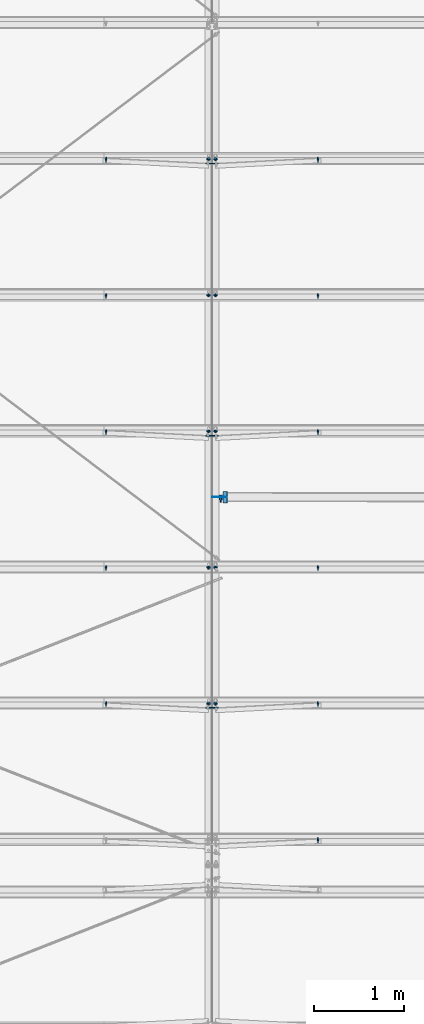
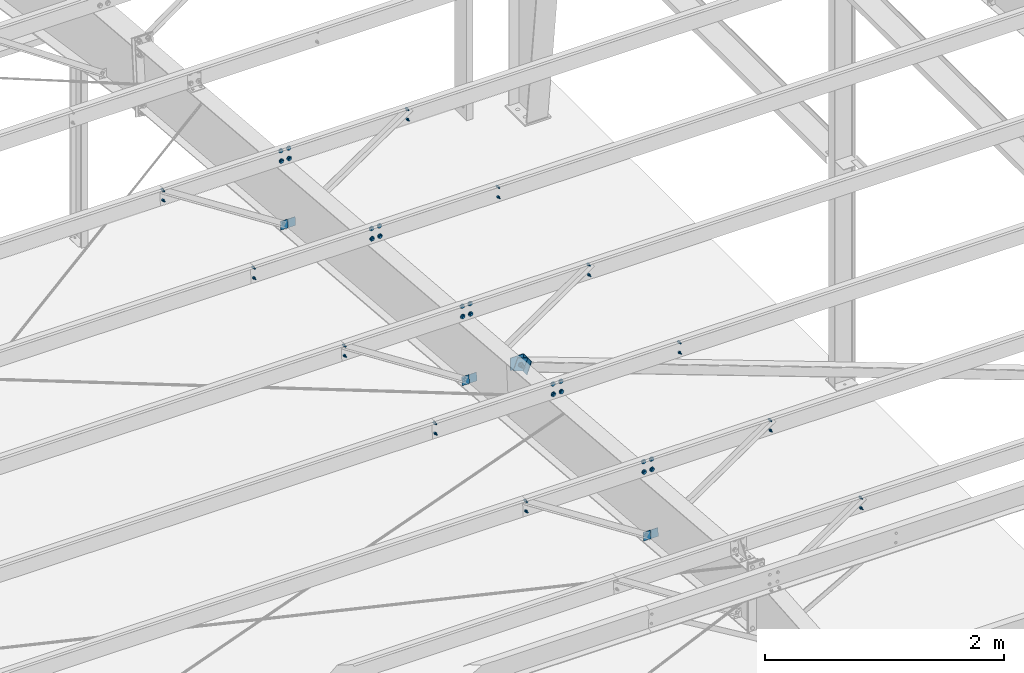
# One storey, part 110 of 185: 22 mechanical fasteners, 9 discrete accessories, 13 elements without a shape of their own.
"""IFC2X3 building model written with IfcOpenShell, lengths in millimetres."""

from ifc_helpers import new_model, si_unit, frame, origin_with_axes, origin_2d_with_axis, place, context, subcontext, project, spatial, polyline, rectangle, circle, outline, extrude, source, transform, mapped, material, type_object, element, aggregate, save


model = new_model("IFC2X3")

# Units and contexts
model_context = context("Model", 3, precision=1e-05, world=origin_with_axes())
body_context = subcontext(model_context, "Body", "Model", "MODEL_VIEW")
ifc_project = project(units=[si_unit("LENGTHUNIT", "METRE", prefix="MILLI"), si_unit("AREAUNIT", "SQUARE_METRE"), si_unit("VOLUMEUNIT", "CUBIC_METRE"), si_unit("MASSUNIT", "GRAM", prefix="KILO"), si_unit("TIMEUNIT", "SECOND"), si_unit("PLANEANGLEUNIT", "RADIAN"), si_unit("SOLIDANGLEUNIT", "STERADIAN"), si_unit("THERMODYNAMICTEMPERATUREUNIT", "DEGREE_CELSIUS"), si_unit("LUMINOUSINTENSITYUNIT", "LUMEN")], contexts=[model_context])

# Site, building, storey
site_placement = place(None, origin_with_axes())
site = spatial("IfcSite", under=ifc_project, at=site_placement, Name="Undefined", CompositionType="ELEMENT")
building_placement = place(site_placement, origin_with_axes())
building = spatial("IfcBuilding", under=site, at=building_placement, Name="Undefined", CompositionType="ELEMENT")
storey_placement = place(building_placement, origin_with_axes())
storey = spatial("IfcBuildingStorey", under=building, at=storey_placement, Name="Undefined", CompositionType="ELEMENT", Elevation=0.0)

# Assembly, mechanical fastener
assembly_1_placement = place(storey_placement, origin_with_axes())
assembly_1 = element("IfcElementAssembly", 1, at=assembly_1_placement, inside=storey, Name="Steel Assembly", AssemblyPlace="NOTDEFINED", PredefinedType="RIGID_FRAME")
ifc_material_1 = material(Name="Undefined")
discrete_accessory_type_1 = type_object("IfcDiscreteAccessoryType", Name="Bolt assembly")
shared_shape_1 = source(origin_with_axes(), body_context, "Body", "SweptSolid", [
    extrude(circle(Radius=7.14374971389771, at=origin_2d_with_axis()), frame((0.0, -1.59000001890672, 0.0), z_axis=(0.0, 1.0, 0.0), x_axis=(1.0, 0.0, 0.0)), (0.0, 0.0, 1.0), 3.3),
    extrude(circle(Radius=13.4937496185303, at=origin_2d_with_axis()), frame((0.0, -5.5587500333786, 0.0), z_axis=(0.0, 1.0, 0.0), x_axis=(1.0, 0.0, 0.0)), (0.0, 0.0, 1.0), 4.0),
    extrude(circle(Radius=22.2250003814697, at=origin_2d_with_axis()), frame((0.0, 1.5900000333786, 0.0), z_axis=(0.0, 1.0, 0.0), x_axis=(1.0, 0.0, 0.0)), (0.0, 0.0, 1.0), 7.9),
    extrude(outline(polyline([(12.8316099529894, 0.0), (6.4158049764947, 11.1125001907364), (-6.4158049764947, 11.1125001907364), (-12.8316099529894, 0.0), (-6.4158049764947, -11.1125001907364), (6.4158049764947, -11.1125001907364), (12.8316099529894, 0.0)])), frame((0.0, 9.5275000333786, 0.0), z_axis=(0.0, 1.0, 0.0), x_axis=(1.0, 0.0, 0.0)), (0.0, 0.0, 1.0), 12.3),
])
mechanical_fastener_1_placement = place(assembly_1_placement, frame((37680.9, 17820.2637478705, 7227.00193971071), z_axis=(-1.0, 0.0, 0.0), x_axis=(0.0, -0.0830454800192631, -0.996545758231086)))
mechanical_fastener_1 = element("IfcMechanicalFastener", 2, at=mechanical_fastener_1_placement, type_object=discrete_accessory_type_1, material=ifc_material_1, Name="Bolt assembly", NominalDiameter=12.6999998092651, NominalLength=38.0999984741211, context=body_context, shape_type="MappedRepresentation", body=[
    mapped(shared_shape_1, transform((0.0, 0.0, 0.0))),
    mapped(shared_shape_1, transform((101.599998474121, 0.0, 0.0))),
])
aggregate(assembly_1, [mechanical_fastener_1])

assembly_2_placement = place(storey_placement, origin_with_axes())
assembly_2 = element("IfcElementAssembly", 3, at=assembly_2_placement, inside=storey, Name="Steel Assembly", AssemblyPlace="NOTDEFINED", PredefinedType="RIGID_FRAME")
mechanical_fastener_2_placement = place(assembly_2_placement, frame((37757.1, 17820.2637478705, 7227.00193971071), z_axis=(-1.0, 0.0, 0.0), x_axis=(0.0, -0.0830454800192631, -0.996545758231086)))
mechanical_fastener_2 = element("IfcMechanicalFastener", 4, at=mechanical_fastener_2_placement, type_object=discrete_accessory_type_1, material=ifc_material_1, Name="Bolt assembly", NominalDiameter=12.6999998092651, NominalLength=38.0999984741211, context=body_context, shape_type="MappedRepresentation", body=[
    mapped(shared_shape_1, transform((0.0, 0.0, 0.0))),
    mapped(shared_shape_1, transform((101.599998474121, 0.0, 0.0))),
])

assembly_3_placement = place(storey_placement, origin_with_axes())
assembly_3 = element("IfcElementAssembly", 5, at=assembly_3_placement, inside=storey, Name="Steel Assembly", AssemblyPlace="NOTDEFINED", PredefinedType="RIGID_FRAME")
mechanical_fastener_3_placement = place(assembly_3_placement, frame((37680.9, 19338.9994834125, 7100.44062815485), z_axis=(-1.0, 0.0, 0.0), x_axis=(0.0, -0.0830454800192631, -0.996545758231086)))
mechanical_fastener_3 = element("IfcMechanicalFastener", 6, at=mechanical_fastener_3_placement, type_object=discrete_accessory_type_1, material=ifc_material_1, Name="Bolt assembly", NominalDiameter=12.6999998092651, NominalLength=38.0999984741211, context=body_context, shape_type="MappedRepresentation", body=[
    mapped(shared_shape_1, transform((0.0, 0.0, 0.0))),
    mapped(shared_shape_1, transform((101.599998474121, 0.0, 0.0))),
])
aggregate(assembly_3, [mechanical_fastener_3])

assembly_4_placement = place(storey_placement, origin_with_axes())
assembly_4 = element("IfcElementAssembly", 7, at=assembly_4_placement, inside=storey, Name="Steel Assembly", AssemblyPlace="NOTDEFINED", PredefinedType="RIGID_FRAME")
mechanical_fastener_4_placement = place(assembly_4_placement, frame((37757.1, 19338.9994834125, 7100.44062815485), z_axis=(-1.0, 0.0, 0.0), x_axis=(0.0, -0.0830454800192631, -0.996545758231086)))
mechanical_fastener_4 = element("IfcMechanicalFastener", 8, at=mechanical_fastener_4_placement, type_object=discrete_accessory_type_1, material=ifc_material_1, Name="Bolt assembly", NominalDiameter=12.6999998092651, NominalLength=38.0999984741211, context=body_context, shape_type="MappedRepresentation", body=[
    mapped(shared_shape_1, transform((0.0, 0.0, 0.0))),
    mapped(shared_shape_1, transform((101.599998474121, 0.0, 0.0))),
])

assembly_5_placement = place(storey_placement, origin_with_axes())
assembly_5 = element("IfcElementAssembly", 9, at=assembly_5_placement, inside=storey, Name="Steel Assembly", AssemblyPlace="NOTDEFINED", PredefinedType="RIGID_FRAME")
mechanical_fastener_5_placement = place(assembly_5_placement, frame((37680.9, 20857.7352189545, 6973.87931659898), z_axis=(-1.0, 0.0, 0.0), x_axis=(0.0, -0.0830454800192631, -0.996545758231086)))
mechanical_fastener_5 = element("IfcMechanicalFastener", 10, at=mechanical_fastener_5_placement, type_object=discrete_accessory_type_1, material=ifc_material_1, Name="Bolt assembly", NominalDiameter=12.6999998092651, NominalLength=38.0999984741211, context=body_context, shape_type="MappedRepresentation", body=[
    mapped(shared_shape_1, transform((0.0, 0.0, 0.0))),
    mapped(shared_shape_1, transform((101.599998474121, 0.0, 0.0))),
])
aggregate(assembly_5, [mechanical_fastener_5])

assembly_6_placement = place(storey_placement, origin_with_axes())
assembly_6 = element("IfcElementAssembly", 11, at=assembly_6_placement, inside=storey, Name="Steel Assembly", AssemblyPlace="NOTDEFINED", PredefinedType="RIGID_FRAME")
mechanical_fastener_6_placement = place(assembly_6_placement, frame((37757.1, 20857.7352189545, 6973.87931659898), z_axis=(-1.0, 0.0, 0.0), x_axis=(0.0, -0.0830454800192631, -0.996545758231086)))
mechanical_fastener_6 = element("IfcMechanicalFastener", 12, at=mechanical_fastener_6_placement, type_object=discrete_accessory_type_1, material=ifc_material_1, Name="Bolt assembly", NominalDiameter=12.6999998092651, NominalLength=38.0999984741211, context=body_context, shape_type="MappedRepresentation", body=[
    mapped(shared_shape_1, transform((0.0, 0.0, 0.0))),
    mapped(shared_shape_1, transform((101.599998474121, 0.0, 0.0))),
])

assembly_7_placement = place(storey_placement, origin_with_axes())
assembly_7 = element("IfcElementAssembly", 13, at=assembly_7_placement, inside=storey, Name="Steel Assembly", AssemblyPlace="NOTDEFINED", PredefinedType="RIGID_FRAME")
mechanical_fastener_7_placement = place(assembly_7_placement, frame((37680.9, 22376.4709544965, 6847.31800504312), z_axis=(-1.0, 0.0, 0.0), x_axis=(0.0, -0.0830454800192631, -0.996545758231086)))
mechanical_fastener_7 = element("IfcMechanicalFastener", 14, at=mechanical_fastener_7_placement, type_object=discrete_accessory_type_1, material=ifc_material_1, Name="Bolt assembly", NominalDiameter=12.6999998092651, NominalLength=38.0999984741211, context=body_context, shape_type="MappedRepresentation", body=[
    mapped(shared_shape_1, transform((0.0, 0.0, 0.0))),
    mapped(shared_shape_1, transform((101.599998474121, 0.0, 0.0))),
])
aggregate(assembly_7, [mechanical_fastener_7])

assembly_8_placement = place(storey_placement, origin_with_axes())
assembly_8 = element("IfcElementAssembly", 15, at=assembly_8_placement, inside=storey, Name="Steel Assembly", AssemblyPlace="NOTDEFINED", PredefinedType="RIGID_FRAME")
mechanical_fastener_8_placement = place(assembly_8_placement, frame((37757.1, 22376.4709544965, 6847.31800504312), z_axis=(-1.0, 0.0, 0.0), x_axis=(0.0, -0.0830454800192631, -0.996545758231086)))
mechanical_fastener_8 = element("IfcMechanicalFastener", 16, at=mechanical_fastener_8_placement, type_object=discrete_accessory_type_1, material=ifc_material_1, Name="Bolt assembly", NominalDiameter=12.6999998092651, NominalLength=38.0999984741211, context=body_context, shape_type="MappedRepresentation", body=[
    mapped(shared_shape_1, transform((0.0, 0.0, 0.0))),
    mapped(shared_shape_1, transform((101.599998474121, 0.0, 0.0))),
])

assembly_9_placement = place(storey_placement, origin_with_axes())
assembly_9 = element("IfcElementAssembly", 17, at=assembly_9_placement, inside=storey, Name="Steel Assembly", AssemblyPlace="NOTDEFINED", PredefinedType="RIGID_FRAME")
mechanical_fastener_9_placement = place(assembly_9_placement, frame((37680.9, 23895.2066900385, 6720.75669348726), z_axis=(-1.0, 0.0, 0.0), x_axis=(0.0, -0.0830454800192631, -0.996545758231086)))
mechanical_fastener_9 = element("IfcMechanicalFastener", 18, at=mechanical_fastener_9_placement, type_object=discrete_accessory_type_1, material=ifc_material_1, Name="Bolt assembly", NominalDiameter=12.6999998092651, NominalLength=38.0999984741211, context=body_context, shape_type="MappedRepresentation", body=[
    mapped(shared_shape_1, transform((0.0, 0.0, 0.0))),
    mapped(shared_shape_1, transform((101.599998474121, 0.0, 0.0))),
])
aggregate(assembly_9, [mechanical_fastener_9])

assembly_10_placement = place(storey_placement, origin_with_axes())
assembly_10 = element("IfcElementAssembly", 19, at=assembly_10_placement, inside=storey, Name="Steel Assembly", AssemblyPlace="NOTDEFINED", PredefinedType="RIGID_FRAME")
mechanical_fastener_10_placement = place(assembly_10_placement, frame((37757.1, 23895.2066900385, 6720.75669348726), z_axis=(-1.0, 0.0, 0.0), x_axis=(0.0, -0.0830454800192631, -0.996545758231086)))
mechanical_fastener_10 = element("IfcMechanicalFastener", 20, at=mechanical_fastener_10_placement, type_object=discrete_accessory_type_1, material=ifc_material_1, Name="Bolt assembly", NominalDiameter=12.6999998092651, NominalLength=38.0999984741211, context=body_context, shape_type="MappedRepresentation", body=[
    mapped(shared_shape_1, transform((0.0, 0.0, 0.0))),
    mapped(shared_shape_1, transform((101.599998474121, 0.0, 0.0))),
])

# Assembly, discrete accessories
assembly_11_placement = place(storey_placement, origin_with_axes())
assembly_11 = element("IfcElementAssembly", 21, at=assembly_11_placement, inside=storey, Name="Steel Assembly", AssemblyPlace="NOTDEFINED", PredefinedType="RIGID_FRAME")
ifc_material_2 = material(Name="STEEL/55")
discrete_accessory_type_2 = type_object("IfcDiscreteAccessoryType", Name="PLATE")
discrete_accessory_1_placement = place(assembly_11_placement, frame((37837.9140946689, 20113.6161229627, 6838.81537230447), z_axis=(-0.938772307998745, 0.000380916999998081, 0.34453796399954), x_axis=(-0.344537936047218, 0.000139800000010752, -0.938772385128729)))
discrete_accessory_1 = element("IfcDiscreteAccessory", 22, at=discrete_accessory_1_placement, type_object=discrete_accessory_type_2, material=ifc_material_2, Name="PLATE", ObjectType="FL1/4\"X4\"", context=body_context, shape_type="SweptSolid", body=[
    extrude(rectangle(XDim=6.35, YDim=101.6, at=origin_2d_with_axis()), frame((127.000000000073, 3.63797855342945e-12, 7.27595761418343e-12), z_axis=(-1.0, 0.0, 0.0), x_axis=(0.0, -1.0, 0.0)), (0.0, 0.0, 1.0), 127.0),
])
discrete_accessory_2_placement = place(assembly_11_placement, frame((37888.5843300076, 20113.5955629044, 6820.21893563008), z_axis=(0.000405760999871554, 0.999999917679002, 0.0), x_axis=(-0.344537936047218, 0.000139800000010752, -0.938772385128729)))
discrete_accessory_2 = element("IfcDiscreteAccessory", 23, at=discrete_accessory_2_placement, type_object=discrete_accessory_type_2, material=ifc_material_2, Name="PLATE", ObjectType="FL1/4\"X5\"", context=body_context, shape_type="SweptSolid", body=[
    extrude(rectangle(XDim=6.35, YDim=127.0, at=origin_2d_with_axis()), frame((127.000000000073, 3.63797855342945e-12, 7.27595761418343e-12), z_axis=(-1.0, 0.0, 0.0), x_axis=(0.0, -1.0, 0.0)), (0.0, 0.0, 1.0), 127.0),
])

assembly_12_placement = place(storey_placement, origin_with_axes())
assembly_12 = element("IfcElementAssembly", 24, at=assembly_12_placement, inside=storey, Name="Steel Assembly", AssemblyPlace="NOTDEFINED", PredefinedType="RIGID_FRAME")
discrete_accessory_3_placement = place(assembly_12_placement, frame((37847.785937, 20116.8, 6810.95332901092), z_axis=(0.0, 0.0, 1.0), x_axis=(-1.0, 0.0, 0.0)))
discrete_accessory_3 = element("IfcDiscreteAccessory", 25, at=discrete_accessory_3_placement, type_object=discrete_accessory_type_2, material=ifc_material_2, Name="PLATE", ObjectType="FL1/4\"X5\"", context=body_context, shape_type="SweptSolid", body=[
    extrude(rectangle(XDim=6.35, YDim=127.0, at=origin_2d_with_axis()), frame((127.000000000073, 3.63797855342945e-12, 7.27595761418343e-12), z_axis=(-1.0, 0.0, 0.0), x_axis=(0.0, -1.0, 0.0)), (0.0, 0.0, 1.0), 127.0),
])
discrete_accessory_type_3 = type_object("IfcDiscreteAccessoryType", Name="FLANGE BRACE FLIP")
discrete_accessory_4_placement = place(assembly_12_placement, frame((37717.29185, 23836.5274434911, 5996.03869127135), z_axis=(0.0, 0.0830454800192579, 0.996545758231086), x_axis=(-1.0, 0.0, 0.0)))
discrete_accessory_4 = element("IfcDiscreteAccessory", 26, at=discrete_accessory_4_placement, type_object=discrete_accessory_type_3, material=ifc_material_2, Name="FLANGE BRACE FLIP", ObjectType="PL1/8\"X2 3/4\"", context=body_context, shape_type="SweptSolid", body=[
    extrude(rectangle(XDim=3.416, YDim=85.725, at=origin_2d_with_axis()), frame((69.8499999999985, 0.0, 0.0), z_axis=(-1.0, 0.0, 0.0), x_axis=(0.0, -1.0, 0.0)), (0.0, 0.0, 1.0), 69.8),
])
discrete_accessory_5_placement = place(assembly_12_placement, frame((37720.70815, 23836.5274434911, 5996.03869127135), z_axis=(0.0, 0.0830454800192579, 0.996545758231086), x_axis=(1.0, 0.0, 0.0)))
discrete_accessory_5 = element("IfcDiscreteAccessory", 27, at=discrete_accessory_5_placement, type_object=discrete_accessory_type_3, material=ifc_material_2, Name="FLANGE BRACE FLIP", ObjectType="PL1/8\"X2 3/4\"", context=body_context, shape_type="SweptSolid", body=[
    extrude(rectangle(XDim=3.416, YDim=85.725, at=origin_2d_with_axis()), frame((69.8499999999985, 0.0, 0.0), z_axis=(-1.0, 0.0, 0.0), x_axis=(0.0, -1.0, 0.0)), (0.0, 0.0, 1.0), 69.8),
])
discrete_accessory_6_placement = place(assembly_12_placement, frame((37717.29185, 17761.5845012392, 6502.28393648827), z_axis=(0.0, 0.0830454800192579, 0.996545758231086), x_axis=(-1.0, 0.0, 0.0)))
discrete_accessory_6 = element("IfcDiscreteAccessory", 28, at=discrete_accessory_6_placement, type_object=discrete_accessory_type_3, material=ifc_material_2, Name="FLANGE BRACE FLIP", ObjectType="PL1/8\"X2 3/4\"", context=body_context, shape_type="SweptSolid", body=[
    extrude(rectangle(XDim=3.416, YDim=85.725, at=origin_2d_with_axis()), frame((69.8499999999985, 0.0, 0.0), z_axis=(-1.0, 0.0, 0.0), x_axis=(0.0, -1.0, 0.0)), (0.0, 0.0, 1.0), 69.8),
])
discrete_accessory_7_placement = place(assembly_12_placement, frame((37720.70815, 17761.5845012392, 6502.28393648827), z_axis=(0.0, 0.0830454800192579, 0.996545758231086), x_axis=(1.0, 0.0, 0.0)))
discrete_accessory_7 = element("IfcDiscreteAccessory", 29, at=discrete_accessory_7_placement, type_object=discrete_accessory_type_3, material=ifc_material_2, Name="FLANGE BRACE FLIP", ObjectType="PL1/8\"X2 3/4\"", context=body_context, shape_type="SweptSolid", body=[
    extrude(rectangle(XDim=3.416, YDim=85.725, at=origin_2d_with_axis()), frame((69.8499999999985, 0.0, 0.0), z_axis=(-1.0, 0.0, 0.0), x_axis=(0.0, -1.0, 0.0)), (0.0, 0.0, 1.0), 69.8),
])
discrete_accessory_8_placement = place(assembly_12_placement, frame((37717.29185, 20799.0559723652, 6249.16131387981), z_axis=(0.0, 0.0830454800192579, 0.996545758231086), x_axis=(-1.0, 0.0, 0.0)))
discrete_accessory_8 = element("IfcDiscreteAccessory", 30, at=discrete_accessory_8_placement, type_object=discrete_accessory_type_3, material=ifc_material_2, Name="FLANGE BRACE FLIP", ObjectType="PL1/8\"X2 3/4\"", context=body_context, shape_type="SweptSolid", body=[
    extrude(rectangle(XDim=3.416, YDim=85.725, at=origin_2d_with_axis()), frame((69.8499999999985, 0.0, 0.0), z_axis=(-1.0, 0.0, 0.0), x_axis=(0.0, -1.0, 0.0)), (0.0, 0.0, 1.0), 69.8),
])
discrete_accessory_9_placement = place(assembly_12_placement, frame((37720.70815, 20799.0559723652, 6249.16131387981), z_axis=(0.0, 0.0830454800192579, 0.996545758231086), x_axis=(1.0, 0.0, 0.0)))
discrete_accessory_9 = element("IfcDiscreteAccessory", 31, at=discrete_accessory_9_placement, type_object=discrete_accessory_type_3, material=ifc_material_2, Name="FLANGE BRACE FLIP", ObjectType="PL1/8\"X2 3/4\"", context=body_context, shape_type="SweptSolid", body=[
    extrude(rectangle(XDim=3.416, YDim=85.725, at=origin_2d_with_axis()), frame((69.8499999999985, 0.0, 0.0), z_axis=(-1.0, 0.0, 0.0), x_axis=(0.0, -1.0, 0.0)), (0.0, 0.0, 1.0), 69.8),
])
aggregate(assembly_12, [discrete_accessory_4, discrete_accessory_5, discrete_accessory_6, discrete_accessory_7, discrete_accessory_8, discrete_accessory_9, discrete_accessory_3])

# Assembly, mechanical fastener
assembly_13_placement = place(storey_placement, origin_with_axes())
assembly_13 = element("IfcElementAssembly", 32, at=assembly_13_placement, inside=storey, Name="Steel Assembly", AssemblyPlace="NOTDEFINED", PredefinedType="RIGID_FRAME")
shared_shape_2 = source(origin_with_axes(), body_context, "Body", "SweptSolid", [
    extrude(circle(Radius=7.14374971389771, at=origin_2d_with_axis()), frame((0.0, -1.69000003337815, 0.0), z_axis=(0.0, 1.0, 0.0), x_axis=(1.0, 0.0, 0.0)), (0.0, 0.0, 1.0), 3.3),
    extrude(circle(Radius=7.14374971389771, at=origin_2d_with_axis()), frame((0.0, -1.4900000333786, 0.0), z_axis=(0.0, 1.0, 0.0), x_axis=(1.0, 0.0, 0.0)), (0.0, 0.0, 1.0), 3.2),
    extrude(outline(polyline([(10.9985221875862, 0.0), (5.4992610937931, 9.52499961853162), (-5.4992610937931, 9.52499961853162), (-10.9985221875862, 0.0), (-5.4992610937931, -9.52499961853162), (5.4992610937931, -9.52499961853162), (10.9985221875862, 0.0)])), frame((0.0, -11.1149996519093, 0.0), z_axis=(0.0, 1.0, 0.0), x_axis=(1.0, 0.0, 0.0)), (0.0, 0.0, 1.0), 9.5),
    extrude(circle(Radius=6.34999990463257, at=origin_2d_with_axis()), frame((0.0, -1.59000001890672, 0.0), z_axis=(0.0, 1.0, 0.0), x_axis=(1.0, 0.0, 0.0)), (0.0, 0.0, 1.0), 38.1),
    extrude(outline(polyline([(12.8316099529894, 0.0), (6.4158049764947, 11.1125001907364), (-6.4158049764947, 11.1125001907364), (-12.8316099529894, 0.0), (-6.4158049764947, -11.1125001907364), (6.4158049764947, -11.1125001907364), (12.8316099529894, 0.0)])), frame((0.0, 1.5900000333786, 0.0), z_axis=(0.0, 1.0, 0.0), x_axis=(1.0, 0.0, 0.0)), (0.0, 0.0, 1.0), 12.3),
])
mechanical_fastener_11_placement = place(assembly_13_placement, frame((38900.1, 16301.5280123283, 7353.56325126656), z_axis=(-1.0, 0.0, 0.0), x_axis=(0.0, -0.0830454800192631, -0.996545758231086)))
mechanical_fastener_11 = element("IfcMechanicalFastener", 33, at=mechanical_fastener_11_placement, type_object=discrete_accessory_type_1, material=ifc_material_1, Name="Bolt assembly", NominalDiameter=12.6999998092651, NominalLength=38.0999984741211, context=body_context, shape_type="MappedRepresentation", body=[
    mapped(shared_shape_2, transform((0.0, 0.0, 0.0))),
    mapped(shared_shape_2, transform((101.599998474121, 0.0, 0.0))),
])
aggregate(assembly_13, [mechanical_fastener_11])

# Mechanical fastener
mechanical_fastener_12_placement = place(assembly_2_placement, frame((36537.9, 17820.2637478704, 7227.00193971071), z_axis=(-1.0, 0.0, 0.0), x_axis=(0.0, -0.0830454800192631, -0.996545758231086)))
mechanical_fastener_12 = element("IfcMechanicalFastener", 34, at=mechanical_fastener_12_placement, type_object=discrete_accessory_type_1, material=ifc_material_1, Name="Bolt assembly", NominalDiameter=12.6999998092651, NominalLength=38.0999984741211, context=body_context, shape_type="MappedRepresentation", body=[
    mapped(shared_shape_2, transform((0.0, 0.0, 0.0))),
    mapped(shared_shape_2, transform((101.599998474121, 0.0, 0.0))),
])

mechanical_fastener_13_placement = place(assembly_2_placement, frame((38900.1, 17820.2637478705, 7227.00193971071), z_axis=(-1.0, 0.0, 0.0), x_axis=(0.0, -0.0830454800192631, -0.996545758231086)))
mechanical_fastener_13 = element("IfcMechanicalFastener", 35, at=mechanical_fastener_13_placement, type_object=discrete_accessory_type_1, material=ifc_material_1, Name="Bolt assembly", NominalDiameter=12.6999998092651, NominalLength=38.0999984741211, context=body_context, shape_type="MappedRepresentation", body=[
    mapped(shared_shape_2, transform((0.0, 0.0, 0.0))),
    mapped(shared_shape_2, transform((101.599998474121, 0.0, 0.0))),
])

aggregate(assembly_2, [mechanical_fastener_2, mechanical_fastener_12, mechanical_fastener_13])

mechanical_fastener_14_placement = place(assembly_10_placement, frame((36537.9, 23895.2066900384, 6720.75669348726), z_axis=(-1.0, 0.0, 0.0), x_axis=(0.0, -0.0830454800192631, -0.996545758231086)))
mechanical_fastener_14 = element("IfcMechanicalFastener", 36, at=mechanical_fastener_14_placement, type_object=discrete_accessory_type_1, material=ifc_material_1, Name="Bolt assembly", NominalDiameter=12.6999998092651, NominalLength=38.0999984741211, context=body_context, shape_type="MappedRepresentation", body=[
    mapped(shared_shape_2, transform((0.0, 0.0, 0.0))),
    mapped(shared_shape_2, transform((101.599998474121, 0.0, 0.0))),
])

mechanical_fastener_15_placement = place(assembly_10_placement, frame((38900.1, 23895.2066900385, 6720.75669348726), z_axis=(-1.0, 0.0, 0.0), x_axis=(0.0, -0.0830454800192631, -0.996545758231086)))
mechanical_fastener_15 = element("IfcMechanicalFastener", 37, at=mechanical_fastener_15_placement, type_object=discrete_accessory_type_1, material=ifc_material_1, Name="Bolt assembly", NominalDiameter=12.6999998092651, NominalLength=38.0999984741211, context=body_context, shape_type="MappedRepresentation", body=[
    mapped(shared_shape_2, transform((0.0, 0.0, 0.0))),
    mapped(shared_shape_2, transform((101.599998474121, 0.0, 0.0))),
])

aggregate(assembly_10, [mechanical_fastener_10, mechanical_fastener_14, mechanical_fastener_15])

shared_shape_3 = source(origin_with_axes(), body_context, "Body", "SweptSolid", [
    extrude(circle(Radius=10.3187494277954, at=origin_2d_with_axis()), frame((0.0, 0.0999999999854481, 0.0), z_axis=(0.0, 1.0, 0.0), x_axis=(1.0, 0.0, 0.0)), (0.0, 0.0, 1.0), 6.3),
    extrude(circle(Radius=10.3187494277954, at=origin_2d_with_axis()), frame((0.0, 3.07499947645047, 0.0), z_axis=(0.0, 1.0, 0.0), x_axis=(1.0, 0.0, 0.0)), (0.0, 0.0, 1.0), 6.5),
    extrude(outline(polyline([(18.3308710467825, 0.0), (9.16543552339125, 15.8750000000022), (-9.16543552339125, 15.8750000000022), (-18.3308710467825, 0.0), (-9.16543552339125, -15.8750000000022), (9.16543552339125, -15.8750000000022), (18.3308710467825, 0.0)])), frame((0.0, -15.8750000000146, 0.0), z_axis=(0.0, 1.0, 0.0), x_axis=(1.0, 0.0, 0.0)), (0.0, 0.0, 1.0), 11.9),
    extrude(circle(Radius=9.52499961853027, at=origin_2d_with_axis()), frame((0.0, -3.96874999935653, 0.0), z_axis=(0.0, 1.0, 0.0), x_axis=(1.0, 0.0, 0.0)), (0.0, 0.0, 1.0), 69.8),
    extrude(circle(Radius=18.2562503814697, at=origin_2d_with_axis()), frame((0.0, -3.96874999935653, 0.0), z_axis=(0.0, 1.0, 0.0), x_axis=(1.0, 0.0, 0.0)), (0.0, 0.0, 1.0), 4.0),
    extrude(circle(Radius=22.2250003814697, at=origin_2d_with_axis()), frame((0.0, 9.52499999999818, 0.0), z_axis=(0.0, 1.0, 0.0), x_axis=(1.0, 0.0, 0.0)), (0.0, 0.0, 1.0), 7.9),
    extrude(outline(polyline([(18.3308710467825, 0.0), (9.16543552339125, 15.8750000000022), (-9.16543552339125, 15.8750000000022), (-18.3308710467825, 0.0), (-9.16543552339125, -15.8750000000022), (9.16543552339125, -15.8750000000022), (18.3308710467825, 0.0)])), frame((0.0, 17.4624999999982, 0.0), z_axis=(0.0, 1.0, 0.0), x_axis=(1.0, 0.0, 0.0)), (0.0, 0.0, 1.0), 19.0),
])
mechanical_fastener_16_placement = place(assembly_11_placement, frame((37816.035937, 20119.975, 6779.20332901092), z_axis=(0.0, 0.0, 1.0), x_axis=(-1.0, 0.0, 0.0)))
mechanical_fastener_16 = element("IfcMechanicalFastener", 38, at=mechanical_fastener_16_placement, type_object=discrete_accessory_type_1, material=ifc_material_1, Name="Bolt assembly", NominalDiameter=19.0499992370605, NominalLength=69.8499984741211, context=body_context, shape_type="MappedRepresentation", body=[
    mapped(shared_shape_3, transform((0.0, 0.0, 0.0))),
])

aggregate(assembly_11, [discrete_accessory_1, discrete_accessory_2, mechanical_fastener_16])

shared_shape_4 = source(origin_with_axes(), body_context, "Body", "SweptSolid", [
    extrude(circle(Radius=7.14374971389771, at=origin_2d_with_axis()), frame((0.0, -1.4900000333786, 0.0), z_axis=(0.0, 1.0, 0.0), x_axis=(1.0, 0.0, 0.0)), (0.0, 0.0, 1.0), 3.2),
    extrude(circle(Radius=7.14374971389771, at=origin_2d_with_axis()), frame((0.0, -1.4900000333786, 0.0), z_axis=(0.0, 1.0, 0.0), x_axis=(1.0, 0.0, 0.0)), (0.0, 0.0, 1.0), 3.2),
    extrude(outline(polyline([(10.9985221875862, 0.0), (5.4992610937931, 9.52499961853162), (-5.4992610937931, 9.52499961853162), (-10.9985221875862, 0.0), (-5.4992610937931, -9.52499961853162), (5.4992610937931, -9.52499961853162), (10.9985221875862, 0.0)])), frame((0.0, -11.1149996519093, 0.0), z_axis=(0.0, 1.0, 0.0), x_axis=(1.0, 0.0, 0.0)), (0.0, 0.0, 1.0), 9.5),
    extrude(circle(Radius=6.34999990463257, at=origin_2d_with_axis()), frame((0.0, -1.59000001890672, 0.0), z_axis=(0.0, 1.0, 0.0), x_axis=(1.0, 0.0, 0.0)), (0.0, 0.0, 1.0), 38.1),
    extrude(outline(polyline([(12.8316099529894, 0.0), (6.4158049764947, 11.1125001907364), (-6.4158049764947, 11.1125001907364), (-12.8316099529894, 0.0), (-6.4158049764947, -11.1125001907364), (6.4158049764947, -11.1125001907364), (12.8316099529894, 0.0)])), frame((0.0, 1.5900000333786, 0.0), z_axis=(0.0, 1.0, 0.0), x_axis=(1.0, 0.0, 0.0)), (0.0, 0.0, 1.0), 12.3),
])
mechanical_fastener_17_placement = place(assembly_4_placement, frame((36537.9, 19338.9994834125, 7100.44062815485), z_axis=(-1.0, 0.0, 0.0), x_axis=(0.0, -0.0830454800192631, -0.996545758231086)))
mechanical_fastener_17 = element("IfcMechanicalFastener", 39, at=mechanical_fastener_17_placement, type_object=discrete_accessory_type_1, material=ifc_material_1, Name="Bolt assembly", NominalDiameter=12.6999998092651, NominalLength=38.0999984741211, context=body_context, shape_type="MappedRepresentation", body=[
    mapped(shared_shape_4, transform((0.0, 0.0, 0.0))),
    mapped(shared_shape_4, transform((101.599998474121, 0.0, 0.0))),
])

mechanical_fastener_18_placement = place(assembly_4_placement, frame((38900.1, 19338.9994834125, 7100.44062815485), z_axis=(-1.0, 0.0, 0.0), x_axis=(0.0, -0.0830454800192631, -0.996545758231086)))
mechanical_fastener_18 = element("IfcMechanicalFastener", 40, at=mechanical_fastener_18_placement, type_object=discrete_accessory_type_1, material=ifc_material_1, Name="Bolt assembly", NominalDiameter=12.6999998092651, NominalLength=38.0999984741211, context=body_context, shape_type="MappedRepresentation", body=[
    mapped(shared_shape_4, transform((0.0, 0.0, 0.0))),
    mapped(shared_shape_4, transform((101.599998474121, 0.0, 0.0))),
])

aggregate(assembly_4, [mechanical_fastener_4, mechanical_fastener_17, mechanical_fastener_18])

mechanical_fastener_19_placement = place(assembly_6_placement, frame((36537.9, 20857.7352189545, 6973.87931659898), z_axis=(-1.0, 0.0, 0.0), x_axis=(0.0, -0.0830454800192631, -0.996545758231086)))
mechanical_fastener_19 = element("IfcMechanicalFastener", 41, at=mechanical_fastener_19_placement, type_object=discrete_accessory_type_1, material=ifc_material_1, Name="Bolt assembly", NominalDiameter=12.6999998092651, NominalLength=38.0999984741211, context=body_context, shape_type="MappedRepresentation", body=[
    mapped(shared_shape_4, transform((0.0, 0.0, 0.0))),
    mapped(shared_shape_4, transform((101.599998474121, 0.0, 0.0))),
])

mechanical_fastener_20_placement = place(assembly_6_placement, frame((38900.1, 20857.7352189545, 6973.87931659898), z_axis=(-1.0, 0.0, 0.0), x_axis=(0.0, -0.0830454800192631, -0.996545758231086)))
mechanical_fastener_20 = element("IfcMechanicalFastener", 42, at=mechanical_fastener_20_placement, type_object=discrete_accessory_type_1, material=ifc_material_1, Name="Bolt assembly", NominalDiameter=12.6999998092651, NominalLength=38.0999984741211, context=body_context, shape_type="MappedRepresentation", body=[
    mapped(shared_shape_4, transform((0.0, 0.0, 0.0))),
    mapped(shared_shape_4, transform((101.599998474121, 0.0, 0.0))),
])

aggregate(assembly_6, [mechanical_fastener_6, mechanical_fastener_19, mechanical_fastener_20])

mechanical_fastener_21_placement = place(assembly_8_placement, frame((36537.9, 22376.4709544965, 6847.31800504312), z_axis=(-1.0, 0.0, 0.0), x_axis=(0.0, -0.0830454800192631, -0.996545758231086)))
mechanical_fastener_21 = element("IfcMechanicalFastener", 43, at=mechanical_fastener_21_placement, type_object=discrete_accessory_type_1, material=ifc_material_1, Name="Bolt assembly", NominalDiameter=12.6999998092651, NominalLength=38.0999984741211, context=body_context, shape_type="MappedRepresentation", body=[
    mapped(shared_shape_4, transform((0.0, 0.0, 0.0))),
    mapped(shared_shape_4, transform((101.599998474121, 0.0, 0.0))),
])

mechanical_fastener_22_placement = place(assembly_8_placement, frame((38900.1, 22376.4709544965, 6847.31800504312), z_axis=(-1.0, 0.0, 0.0), x_axis=(0.0, -0.0830454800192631, -0.996545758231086)))
mechanical_fastener_22 = element("IfcMechanicalFastener", 44, at=mechanical_fastener_22_placement, type_object=discrete_accessory_type_1, material=ifc_material_1, Name="Bolt assembly", NominalDiameter=12.6999998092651, NominalLength=38.0999984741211, context=body_context, shape_type="MappedRepresentation", body=[
    mapped(shared_shape_4, transform((0.0, 0.0, 0.0))),
    mapped(shared_shape_4, transform((101.599998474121, 0.0, 0.0))),
])

aggregate(assembly_8, [mechanical_fastener_8, mechanical_fastener_21, mechanical_fastener_22])

save(model, "model.ifc")
